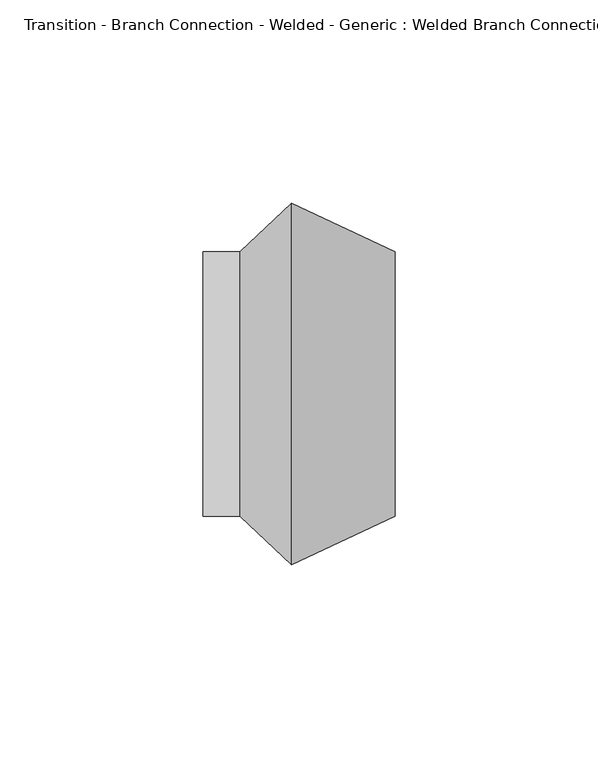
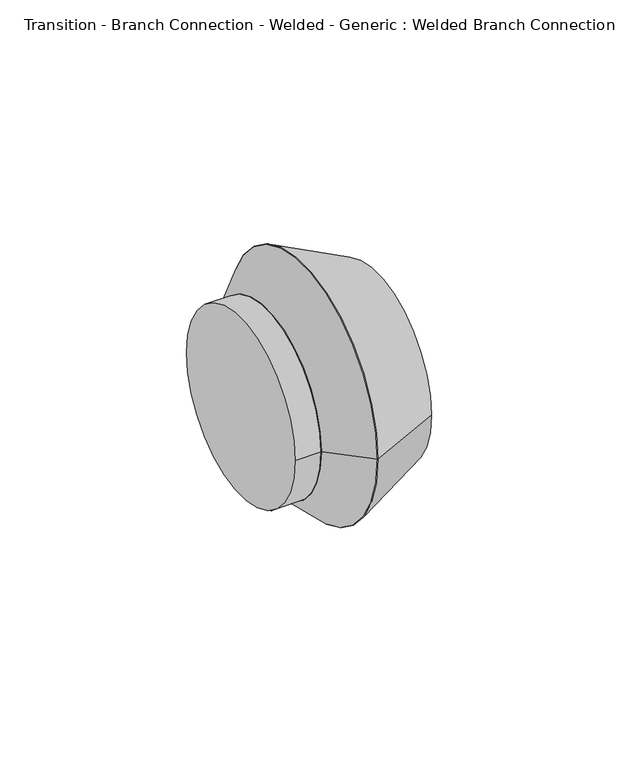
"""IFC4 building model written with IfcOpenShell, lengths in millimetres: pipe fitting geometry, Transition - Branch Connection - Welded - Generic : Welded Branch Connection."""

from ifc_helpers import new_model, si_unit, point, frame, origin, origin_2d, place, context, project, spatial, polyline, circle_curve, trimmed, segment, composite_curve, outline, extrude, source, transform, mapped, element, save
from ifc_brep_helpers import plane_surface, revolved_surface, advanced_brep


def transition_branch_connection_welded_generic_welded_branch_7673c1e6(model_context):
    return source(origin(), model_context, "Body", "SolidModel", [
        advanced_brep(
        [(12.7, -44.45, 0.0), (12.7, 44.45, 0.0), (38.1, -32.54375, 0.0), (38.1, 32.54375, 0.0)],
        [
            (0, 1, circle_curve(frame((12.7, 0.0, 0.0), z_axis=(-1.0, 0.0, 0.0), x_axis=(0.0, -1.0, 0.0)), 44.45)),
            (1, 0, circle_curve(frame((12.7, 0.0, 0.0), z_axis=(-1.0, 0.0, 0.0), x_axis=(0.0, 1.0, 0.0)), 44.45)),
            (2, 3, circle_curve(frame((38.1, 0.0, 0.0), z_axis=(1.0, 0.0, 0.0), x_axis=(0.0, 1.0, 0.0)), 32.54375)),
            (3, 2, circle_curve(frame((38.1, 0.0, 0.0), z_axis=(1.0, 0.0, 0.0), x_axis=(0.0, -1.0, 0.0)), 32.54375)),
            (2, 0),
            (1, 3),
        ],
        [
            plane_surface(frame((12.7, 0.0, 0.0), z_axis=(-1.0, 0.0, 0.0), x_axis=(0.0, 0.0, -1.0))),
            plane_surface(frame((38.1, 0.0, 0.0), z_axis=(1.0, 0.0, 0.0), x_axis=(0.0, 0.0, -1.0))),
            revolved_surface(polyline([(38.10000000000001, -32.54375000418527, 0.0), (12.700000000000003, -44.45, 0.0)]), (107.5266667, 0.0, 0.0), (-1.0, 0.0, 0.0)),
            revolved_surface(polyline([(38.10000000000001, 32.54375000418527, 0.0), (12.700000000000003, 44.45, 0.0)]), (107.5266667, 0.0, 0.0), (-1.0, 0.0, 0.0)),
        ],
        [
            (0, [[1, 2]]),
            (1, [[3, 4]]),
            (2, [[-3, 5, -2, 6]]),
            (3, [[-4, -6, -1, -5]]),
        ],
    ),
        advanced_brep(
        [(12.7, -44.45, 0.0), (12.7, 44.45, 0.0), (0.0, -32.54375, 0.0), (0.0, 32.54375, 0.0)],
        [
            (0, 1, circle_curve(frame((12.7, 0.0, 0.0), z_axis=(1.0, 0.0, 0.0), x_axis=(0.0, -1.0, 0.0)), 44.45)),
            (1, 0, circle_curve(frame((12.7, 0.0, 0.0), z_axis=(1.0, 0.0, 0.0), x_axis=(0.0, 1.0, 0.0)), 44.45)),
            (2, 3, circle_curve(frame((0.0, 0.0, 0.0), z_axis=(-1.0, 0.0, 0.0), x_axis=(0.0, 1.0, 0.0)), 32.54375)),
            (3, 2, circle_curve(frame((0.0, 0.0, 0.0), z_axis=(-1.0, 0.0, 0.0), x_axis=(0.0, -1.0, 0.0)), 32.54375)),
            (3, 1),
            (0, 2),
        ],
        [
            plane_surface(frame((12.7, 0.0, 0.0), z_axis=(1.0, 0.0, 0.0), x_axis=(0.0, 0.0, -1.0))),
            plane_surface(frame((0.0, 0.0, 0.0), z_axis=(-1.0, 0.0, 0.0), x_axis=(0.0, 0.0, -1.0))),
            revolved_surface(polyline([(0.0, 32.54374999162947, 0.0), (12.700000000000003, 44.45, 0.0)]), (-34.7133333, 0.0, 0.0), (1.0, 0.0, 0.0)),
            revolved_surface(polyline([(0.0, -32.54374999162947, 0.0), (12.700000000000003, -44.45, 0.0)]), (-34.7133333, 0.0, 0.0), (1.0, 0.0, 0.0)),
        ],
        [
            (0, [[1, 2]]),
            (1, [[3, 4]]),
            (2, [[-4, 5, -1, 6]]),
            (3, [[-3, -6, -2, -5]]),
        ],
    ),
        extrude(outline(composite_curve([segment(trimmed(circle_curve(origin_2d(), 32.54375), [point((-32.54375, 0.0))], [point((32.54375, 0.0))], False, "CARTESIAN"), True, "CONTINUOUS"), segment(trimmed(circle_curve(origin_2d(), 32.54375), [point((32.54375, 0.0))], [point((-32.54375, 0.0))], False, "CARTESIAN"), True, "CONTINUOUS")], self_intersect=False)), frame((-9.0816181, 0.0, 0.0), z_axis=(1.0, 0.0, 0.0), x_axis=(0.0, 1.0, 0.0)), (0.0, 0.0, 1.0), 9.0816181),
    ])


if __name__ == "__main__":
    model = new_model("IFC4")
    model_context = context("Model", 3, world=origin())
    ifc_project = project(units=[si_unit("LENGTHUNIT", "METRE", prefix="MILLI")], contexts=[model_context])
    site = spatial("IfcSite", under=ifc_project)
    building = spatial("IfcBuilding", under=site)
    placement = place(None, origin())
    transition_branch_connection_welded_generic_welded_branch_shape = transition_branch_connection_welded_generic_welded_branch_7673c1e6(model_context)
    element("IfcPipeFitting", 1, ObjectType="Transition - Branch Connection - Welded - Generic : Welded Branch Connection", at=placement, inside=building, context=model_context, shape_type="MappedRepresentation", body=[
        mapped(transition_branch_connection_welded_generic_welded_branch_shape, transform((0.0, 0.0, 0.0), x_axis=(1.0, 0.0, 0.0), y_axis=(0.0, 1.0, 0.0), z_axis=(0.0, 0.0, 1.0))),
    ])
    save(model, "model.ifc")
